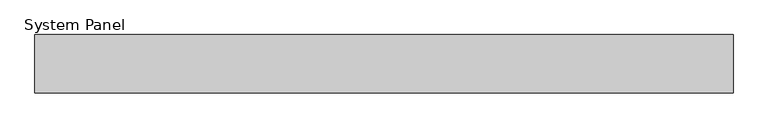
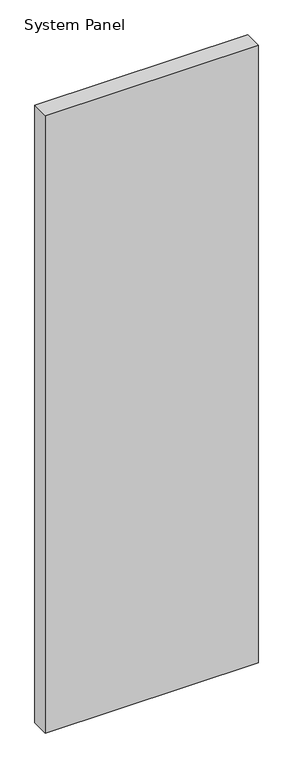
"""IFC4 building model written with IfcOpenShell, lengths in millimetres: plate geometry, System Panel : Equitilt 100mm Vertical - Plain RHEA - MW."""

from ifc_helpers import new_model, si_unit, origin, origin_with_axes, place, context, project, spatial, polyline, outline, extrude, source, transform, mapped, element, save


def system_panel_ce3216b0(model_context):
    return source(origin(), model_context, "Body", "SweptSolid", [
        extrude(outline(polyline([(600.0, -100.0), (-600.0, -100.0), (-600.0, 0.0), (600.0, 0.0), (600.0, -100.0)])), origin_with_axes(), (0.0, 0.0, 1.0), 3679.9704237),
    ])


if __name__ == "__main__":
    model = new_model("IFC4")
    model_context = context("Model", 3, world=origin())
    ifc_project = project(units=[si_unit("LENGTHUNIT", "METRE", prefix="MILLI")], contexts=[model_context])
    site = spatial("IfcSite", under=ifc_project)
    building = spatial("IfcBuilding", under=site)
    placement = place(None, origin())
    system_panel_shape = system_panel_ce3216b0(model_context)
    element("IfcPlate", 1, ObjectType="System Panel : Equitilt 100mm Vertical - Plain RHEA - MW", at=placement, inside=building, context=model_context, shape_type="MappedRepresentation", body=[
        mapped(system_panel_shape, transform((0.0, 0.0, 0.0), x_axis=(1.0, 0.0, 0.0), y_axis=(0.0, 1.0, 0.0), z_axis=(0.0, 0.0, 1.0))),
    ])
    save(model, "model.ifc")
